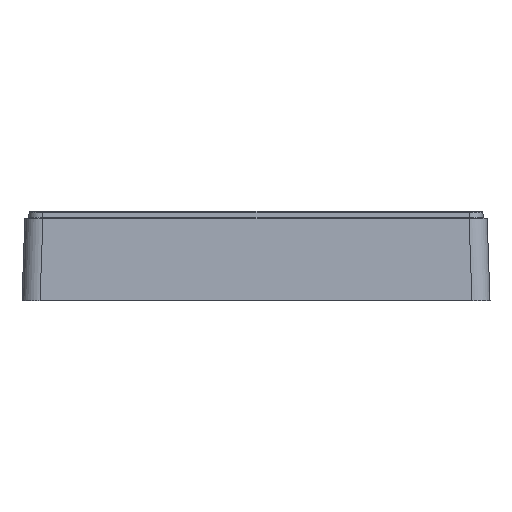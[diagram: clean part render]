
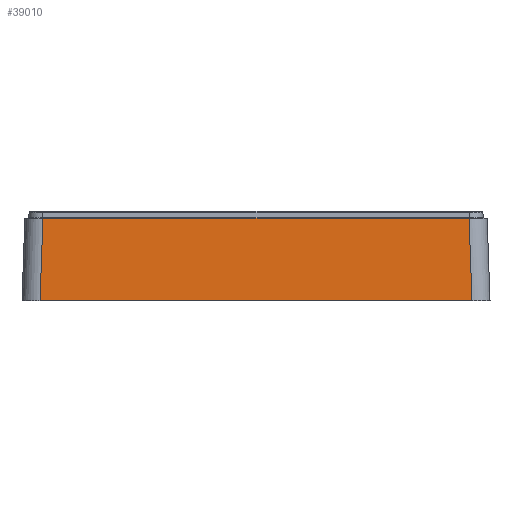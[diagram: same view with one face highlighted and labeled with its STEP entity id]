
A CAD part, left-side view. The second image highlights one B-rep face of the part: STEP entity #39010.
In plain terms, the highlighted planar face has unit normal (-0.999, 0, 0.035).
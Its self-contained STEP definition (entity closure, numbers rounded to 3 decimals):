
#4586=PLANE('',#42490);
#5435=FACE_OUTER_BOUND('',#8116,.T.);
#8116=EDGE_LOOP('',(#28326,#28327,#28328,#28329));
#10615=LINE('',#59729,#12965);
#11301=LINE('',#68370,#13651);
#11372=LINE('',#68979,#13722);
#11373=LINE('',#68980,#13723);
#12965=VECTOR('',#46730,10.);
#13651=VECTOR('',#49548,1000.);
#13722=VECTOR('',#49703,1000.);
#13723=VECTOR('',#49704,1000.);
#16088=VERTEX_POINT('',#59726);
#16089=VERTEX_POINT('',#59728);
#17547=VERTEX_POINT('',#68367);
#17548=VERTEX_POINT('',#68369);
#19742=EDGE_CURVE('',#16089,#16088,#10615,.T.);
#21485=EDGE_CURVE('',#17547,#17548,#11301,.T.);
#21592=EDGE_CURVE('',#16088,#17548,#11372,.T.);
#21593=EDGE_CURVE('',#17547,#16089,#11373,.T.);
#28326=ORIENTED_EDGE('',*,*,#19742,.T.);
#28327=ORIENTED_EDGE('',*,*,#21592,.T.);
#28328=ORIENTED_EDGE('',*,*,#21485,.F.);
#28329=ORIENTED_EDGE('',*,*,#21593,.T.);
#39010=ADVANCED_FACE('',(#5435),#4586,.T.);
#42490=AXIS2_PLACEMENT_3D('',#68978,#49701,#49702);
#46730=DIRECTION('',(0.,-1.,0.));
#49548=DIRECTION('',(0.,-1.,0.));
#49701=DIRECTION('center_axis',(-0.999,0.,0.035));
#49702=DIRECTION('ref_axis',(0.035,0.,0.999));
#49703=DIRECTION('',(0.035,0.035,0.999));
#49704=DIRECTION('',(-0.035,0.035,-0.999));
#59726=CARTESIAN_POINT('',(-185.796,-59.799,-22.8));
#59728=CARTESIAN_POINT('',(-185.796,59.799,-22.8));
#59729=CARTESIAN_POINT('',(-185.796,-33.873,-22.8));
#68367=CARTESIAN_POINT('',(-185.,59.003,0.));
#68369=CARTESIAN_POINT('',(-185.,-59.003,0.));
#68370=CARTESIAN_POINT('',(-185.,-64.,0.));
#68978=CARTESIAN_POINT('Origin',(-185.,-64.,0.));
#68979=CARTESIAN_POINT('',(-185.006,-59.009,-0.174));
#68980=CARTESIAN_POINT('',(-184.85,58.853,4.285));
